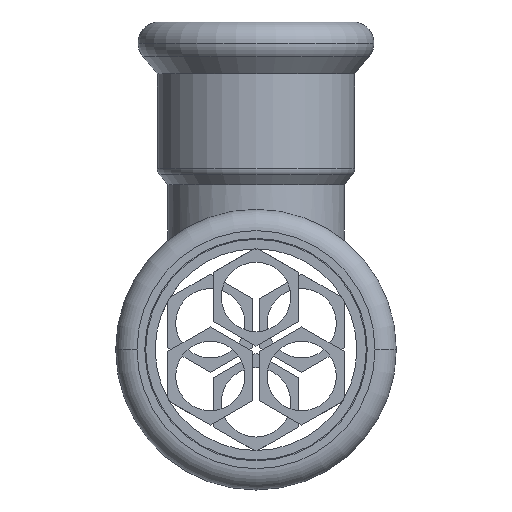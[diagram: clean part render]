
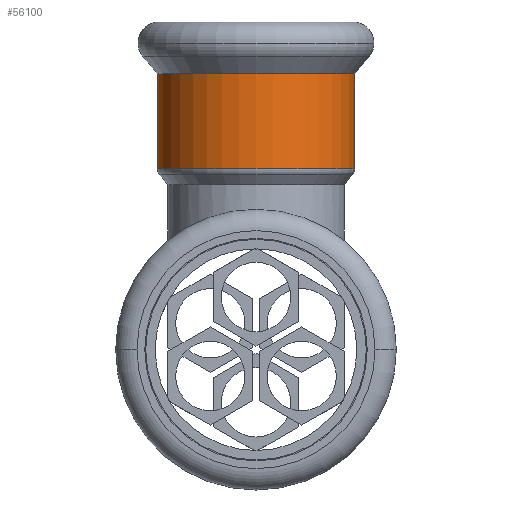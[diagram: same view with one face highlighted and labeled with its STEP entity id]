
A CAD part, front view. The second image highlights one B-rep face of the part: STEP entity #56100.
In plain terms, the highlighted cylindrical face has radius 15.65 mm (diameter 31.3 mm), a partial arc.
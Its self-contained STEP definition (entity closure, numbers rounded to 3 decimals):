
#540=CARTESIAN_POINT('',(-388.656,59.438,0.));
#550=VERTEX_POINT('',#540);
#730=CARTESIAN_POINT('',(-419.956,59.438,
0.));
#740=VERTEX_POINT('',#730);
#770=CARTESIAN_POINT('',(-404.306,59.438,0.));
#780=DIRECTION('',(0.,1.,0.));
#790=DIRECTION('',(-1.,0.,0.));
#800=AXIS2_PLACEMENT_3D('',#770,#780,#790);
#810=CIRCLE('',#800,15.65);
#870=CARTESIAN_POINT('',(-404.306,51.632,0.));
#880=DIRECTION('',(0.,-1.,0.));
#890=DIRECTION('',(-1.,0.,0.));
#900=AXIS2_PLACEMENT_3D('',#870,#880,#890);
#910=CYLINDRICAL_SURFACE('',#900,15.65);
#920=CARTESIAN_POINT('',(-388.656,51.632,
0.));
#930=DIRECTION('',(0.,-1.,0.));
#940=VECTOR('',#930,1.);
#950=LINE('',#920,#940);
#960=CARTESIAN_POINT('',(-388.656,44.386,0.));
#970=VERTEX_POINT('',#960);
#980=EDGE_CURVE('',#550,#970,#950,.T.);
#1010=CARTESIAN_POINT('',(-419.956,51.632,0.));
#1020=DIRECTION('',(0.,-1.,0.));
#1030=VECTOR('',#1020,1.);
#1040=LINE('',#1010,#1030);
#1050=CARTESIAN_POINT('',(-419.956,44.386,0.));
#1060=VERTEX_POINT('',#1050);
#1070=EDGE_CURVE('',#740,#1060,#1040,.T.);
#1090=CARTESIAN_POINT('',(-404.306,44.386,0.));
#1100=DIRECTION('',(0.,-1.,0.));
#1110=DIRECTION('',(-1.,0.,0.));
#1120=AXIS2_PLACEMENT_3D('',#1090,#1100,#1110);
#1130=CIRCLE('',#1120,15.65);
#54200=EDGE_CURVE('',#740,#550,#810,.T.);
#56030=ORIENTED_EDGE('',*,*,#54200,.F.);
#56040=ORIENTED_EDGE('',*,*,#980,.F.);
#56050=EDGE_CURVE('',#970,#1060,#1130,.T.);
#56060=ORIENTED_EDGE('',*,*,#56050,.F.);
#56070=ORIENTED_EDGE('',*,*,#1070,.T.);
#56080=EDGE_LOOP('',(#56070,#56060,#56040,#56030));
#56090=FACE_OUTER_BOUND('',#56080,.T.);
#56100=ADVANCED_FACE('',(#56090),#910,.T.);
